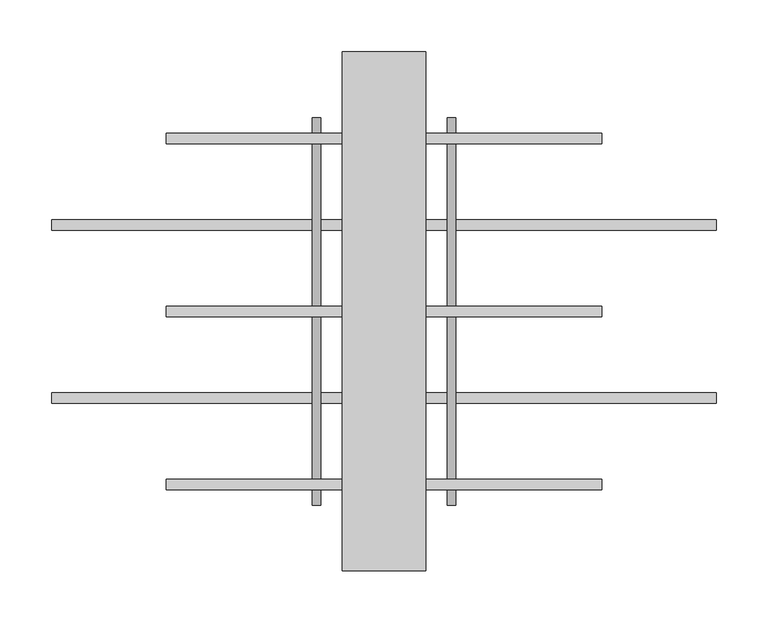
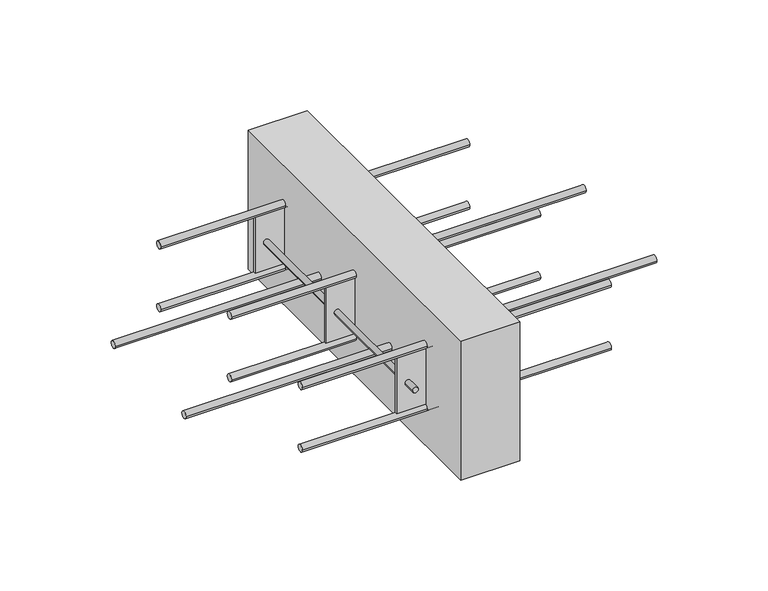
"""IFC4 building model written with IfcOpenShell, lengths in millimetres: proxy geometry, ACINOXplus_Typenreihe_Q : QB+ N."""

from ifc_helpers import new_model, si_unit, point, frame, frame_2d, origin, place, context, project, spatial, polyline, circle_curve, trimmed, segment, composite_curve, outline, extrude, source, transform, mapped, element, save


def generic_models_66d9e6a0(model_context):
    return source(origin(), model_context, "Body", "SweptSolid", [
        extrude(outline(composite_curve([segment(trimmed(circle_curve(frame_2d((83.3333333, -109.0)), 5.0), [point((78.3333333, -109.0))], [point((88.3333333, -109.0))], False, "CARTESIAN"), True, "CONTINUOUS"), segment(trimmed(circle_curve(frame_2d((83.3333333, -109.0)), 5.0), [point((88.3333333, -109.0))], [point((78.3333333, -109.0))], False, "CARTESIAN"), True, "CONTINUOUS")], self_intersect=False)), frame((-320.0, 0.0, 0.0), z_axis=(1.0, 0.0, 0.0), x_axis=(0.0, 1.0, 0.0)), (0.0, 0.0, 1.0), 640.0),
        extrude(outline(composite_curve([segment(trimmed(circle_curve(frame_2d((-83.3333333, -109.0)), 5.0), [point((-88.3333333, -109.0))], [point((-78.3333333, -109.0))], False, "CARTESIAN"), True, "CONTINUOUS"), segment(trimmed(circle_curve(frame_2d((-83.3333333, -109.0)), 5.0), [point((-78.3333333, -109.0))], [point((-88.3333333, -109.0))], False, "CARTESIAN"), True, "CONTINUOUS")], self_intersect=False)), frame((-320.0, 0.0, 0.0), z_axis=(1.0, 0.0, 0.0), x_axis=(0.0, 1.0, 0.0)), (0.0, 0.0, 1.0), 640.0),
        extrude(outline(polyline([(40.0, 250.0), (40.0, -250.0), (-40.0, -250.0), (-40.0, 250.0), (40.0, 250.0)])), frame((0.0, 0.0, -200.0), z_axis=(0.0, 0.0, 1.0), x_axis=(1.0, 0.0, 0.0)), (0.0, 0.0, 1.0), 200.0),
        extrude(outline(polyline([(80.0, 1.5), (80.0, -1.5), (-80.0, -1.5), (-80.0, 1.5), (80.0, 1.5)])), frame((0.0, 0.0, -140.0), z_axis=(0.0, 0.0, 1.0), x_axis=(1.0, 0.0, 0.0)), (0.0, 0.0, 1.0), 80.0),
        extrude(outline(polyline([(80.0, -165.1666667), (80.0, -168.1666667), (-80.0, -168.1666667), (-80.0, -165.1666667), (80.0, -165.1666667)])), frame((0.0, 0.0, -140.0), z_axis=(0.0, 0.0, 1.0), x_axis=(1.0, 0.0, 0.0)), (0.0, 0.0, 1.0), 80.0),
        extrude(outline(polyline([(80.0, 168.1666667), (80.0, 165.1666667), (-80.0, 165.1666667), (-80.0, 168.1666667), (80.0, 168.1666667)])), frame((0.0, 0.0, -140.0), z_axis=(0.0, 0.0, 1.0), x_axis=(1.0, 0.0, 0.0)), (0.0, 0.0, 1.0), 80.0),
        extrude(outline(composite_curve([segment(trimmed(circle_curve(frame_2d((-100.0, -65.0)), 4.0), [point((-100.0, -69.0))], [point((-100.0, -61.0))], False, "CARTESIAN"), True, "CONTINUOUS"), segment(trimmed(circle_curve(frame_2d((-100.0, -65.0)), 4.0), [point((-100.0, -61.0))], [point((-100.0, -69.0))], False, "CARTESIAN"), True, "CONTINUOUS")], self_intersect=False)), frame((0.0, 168.1666667, 0.0), z_axis=(0.0, 1.0, 0.0), x_axis=(0.0, 0.0, 1.0)), (0.0, 0.0, 1.0), 18.5),
        extrude(outline(composite_curve([segment(trimmed(circle_curve(frame_2d((-100.0, -65.0)), 4.0), [point((-100.0, -61.0))], [point((-100.0, -69.0))], False, "CARTESIAN"), True, "CONTINUOUS"), segment(trimmed(circle_curve(frame_2d((-100.0, -65.0)), 4.0), [point((-100.0, -69.0))], [point((-100.0, -61.0))], False, "CARTESIAN"), True, "CONTINUOUS")], self_intersect=False)), frame((0.0, -186.6666667, 0.0), z_axis=(0.0, 1.0, 0.0), x_axis=(0.0, 0.0, 1.0)), (0.0, 0.0, 1.0), 18.5),
        extrude(outline(composite_curve([segment(trimmed(circle_curve(frame_2d((-100.0, -65.0)), 4.0), [point((-100.0, -69.0))], [point((-100.0, -61.0))], False, "CARTESIAN"), True, "CONTINUOUS"), segment(trimmed(circle_curve(frame_2d((-100.0, -65.0)), 4.0), [point((-100.0, -61.0))], [point((-100.0, -69.0))], False, "CARTESIAN"), True, "CONTINUOUS")], self_intersect=False)), frame((0.0, -165.1666667, 0.0), z_axis=(0.0, 1.0, 0.0), x_axis=(0.0, 0.0, 1.0)), (0.0, 0.0, 1.0), 163.6666667),
        extrude(outline(composite_curve([segment(trimmed(circle_curve(frame_2d((-100.0, -65.0)), 4.0), [point((-100.0, -69.0))], [point((-100.0, -61.0))], False, "CARTESIAN"), True, "CONTINUOUS"), segment(trimmed(circle_curve(frame_2d((-100.0, -65.0)), 4.0), [point((-100.0, -61.0))], [point((-100.0, -69.0))], False, "CARTESIAN"), True, "CONTINUOUS")], self_intersect=False)), frame((0.0, 1.5, 0.0), z_axis=(0.0, 1.0, 0.0), x_axis=(0.0, 0.0, 1.0)), (0.0, 0.0, 1.0), 163.6666667),
        extrude(outline(composite_curve([segment(trimmed(circle_curve(frame_2d((-100.0, 65.0)), 4.0), [point((-100.0, 61.0))], [point((-100.0, 69.0))], False, "CARTESIAN"), True, "CONTINUOUS"), segment(trimmed(circle_curve(frame_2d((-100.0, 65.0)), 4.0), [point((-100.0, 69.0))], [point((-100.0, 61.0))], False, "CARTESIAN"), True, "CONTINUOUS")], self_intersect=False)), frame((0.0, 168.1666667, 0.0), z_axis=(0.0, 1.0, 0.0), x_axis=(0.0, 0.0, 1.0)), (0.0, 0.0, 1.0), 18.5),
        extrude(outline(composite_curve([segment(trimmed(circle_curve(frame_2d((-100.0, 65.0)), 4.0), [point((-100.0, 69.0))], [point((-100.0, 61.0))], False, "CARTESIAN"), True, "CONTINUOUS"), segment(trimmed(circle_curve(frame_2d((-100.0, 65.0)), 4.0), [point((-100.0, 61.0))], [point((-100.0, 69.0))], False, "CARTESIAN"), True, "CONTINUOUS")], self_intersect=False)), frame((0.0, -186.6666667, 0.0), z_axis=(0.0, 1.0, 0.0), x_axis=(0.0, 0.0, 1.0)), (0.0, 0.0, 1.0), 18.5),
        extrude(outline(composite_curve([segment(trimmed(circle_curve(frame_2d((-100.0, 65.0)), 4.0), [point((-100.0, 61.0))], [point((-100.0, 69.0))], False, "CARTESIAN"), True, "CONTINUOUS"), segment(trimmed(circle_curve(frame_2d((-100.0, 65.0)), 4.0), [point((-100.0, 69.0))], [point((-100.0, 61.0))], False, "CARTESIAN"), True, "CONTINUOUS")], self_intersect=False)), frame((0.0, -165.1666667, 0.0), z_axis=(0.0, 1.0, 0.0), x_axis=(0.0, 0.0, 1.0)), (0.0, 0.0, 1.0), 163.6666667),
        extrude(outline(composite_curve([segment(trimmed(circle_curve(frame_2d((-100.0, 65.0)), 4.0), [point((-100.0, 61.0))], [point((-100.0, 69.0))], False, "CARTESIAN"), True, "CONTINUOUS"), segment(trimmed(circle_curve(frame_2d((-100.0, 65.0)), 4.0), [point((-100.0, 69.0))], [point((-100.0, 61.0))], False, "CARTESIAN"), True, "CONTINUOUS")], self_intersect=False)), frame((0.0, 1.5, 0.0), z_axis=(0.0, 1.0, 0.0), x_axis=(0.0, 0.0, 1.0)), (0.0, 0.0, 1.0), 163.6666667),
        extrude(outline(composite_curve([segment(trimmed(circle_curve(frame_2d((0.0, -145.0)), 5.0), [point((-5.0, -145.0))], [point((5.0, -145.0))], False, "CARTESIAN"), True, "CONTINUOUS"), segment(trimmed(circle_curve(frame_2d((0.0, -145.0)), 5.0), [point((5.0, -145.0))], [point((-5.0, -145.0))], False, "CARTESIAN"), True, "CONTINUOUS")], self_intersect=False)), frame((-210.0, 0.0, 0.0), z_axis=(1.0, 0.0, 0.0), x_axis=(0.0, 1.0, 0.0)), (0.0, 0.0, 1.0), 420.0),
        extrude(outline(composite_curve([segment(trimmed(circle_curve(frame_2d((166.6666667, -145.0)), 5.0), [point((161.6666667, -145.0))], [point((171.6666667, -145.0))], False, "CARTESIAN"), True, "CONTINUOUS"), segment(trimmed(circle_curve(frame_2d((166.6666667, -145.0)), 5.0), [point((171.6666667, -145.0))], [point((161.6666667, -145.0))], False, "CARTESIAN"), True, "CONTINUOUS")], self_intersect=False)), frame((-210.0, 0.0, 0.0), z_axis=(1.0, 0.0, 0.0), x_axis=(0.0, 1.0, 0.0)), (0.0, 0.0, 1.0), 420.0),
        extrude(outline(composite_curve([segment(trimmed(circle_curve(frame_2d((-166.6666667, -145.0)), 5.0), [point((-171.6666667, -145.0))], [point((-161.6666667, -145.0))], False, "CARTESIAN"), True, "CONTINUOUS"), segment(trimmed(circle_curve(frame_2d((-166.6666667, -145.0)), 5.0), [point((-161.6666667, -145.0))], [point((-171.6666667, -145.0))], False, "CARTESIAN"), True, "CONTINUOUS")], self_intersect=False)), frame((-210.0, 0.0, 0.0), z_axis=(1.0, 0.0, 0.0), x_axis=(0.0, 1.0, 0.0)), (0.0, 0.0, 1.0), 420.0),
        extrude(outline(composite_curve([segment(trimmed(circle_curve(frame_2d((0.0, -55.0)), 5.0), [point((-5.0, -55.0))], [point((5.0, -55.0))], False, "CARTESIAN"), True, "CONTINUOUS"), segment(trimmed(circle_curve(frame_2d((0.0, -55.0)), 5.0), [point((5.0, -55.0))], [point((-5.0, -55.0))], False, "CARTESIAN"), True, "CONTINUOUS")], self_intersect=False)), frame((-210.0, 0.0, 0.0), z_axis=(1.0, 0.0, 0.0), x_axis=(0.0, 1.0, 0.0)), (0.0, 0.0, 1.0), 420.0),
        extrude(outline(composite_curve([segment(trimmed(circle_curve(frame_2d((166.6666667, -55.0)), 5.0), [point((161.6666667, -55.0))], [point((171.6666667, -55.0))], False, "CARTESIAN"), True, "CONTINUOUS"), segment(trimmed(circle_curve(frame_2d((166.6666667, -55.0)), 5.0), [point((171.6666667, -55.0))], [point((161.6666667, -55.0))], False, "CARTESIAN"), True, "CONTINUOUS")], self_intersect=False)), frame((-210.0, 0.0, 0.0), z_axis=(1.0, 0.0, 0.0), x_axis=(0.0, 1.0, 0.0)), (0.0, 0.0, 1.0), 420.0),
        extrude(outline(composite_curve([segment(trimmed(circle_curve(frame_2d((-166.6666667, -55.0)), 5.0), [point((-171.6666667, -55.0))], [point((-161.6666667, -55.0))], False, "CARTESIAN"), True, "CONTINUOUS"), segment(trimmed(circle_curve(frame_2d((-166.6666667, -55.0)), 5.0), [point((-161.6666667, -55.0))], [point((-171.6666667, -55.0))], False, "CARTESIAN"), True, "CONTINUOUS")], self_intersect=False)), frame((-210.0, 0.0, 0.0), z_axis=(1.0, 0.0, 0.0), x_axis=(0.0, 1.0, 0.0)), (0.0, 0.0, 1.0), 420.0),
    ])


if __name__ == "__main__":
    model = new_model("IFC4")
    model_context = context("Model", 3, world=origin())
    ifc_project = project(units=[si_unit("LENGTHUNIT", "METRE", prefix="MILLI")], contexts=[model_context])
    site = spatial("IfcSite", under=ifc_project)
    building = spatial("IfcBuilding", under=site)
    placement = place(None, origin())
    generic_models_shape = generic_models_66d9e6a0(model_context)
    element("IfcBuildingElementProxy", 1, Name="ACINOXplus_Typenreihe_Q : QB+ N", ObjectType="ACINOXplus_Typenreihe_Q : QB+ N", at=placement, inside=building, context=model_context, shape_type="MappedRepresentation", body=[
        mapped(generic_models_shape, transform((0.0, 0.0, 0.0), x_axis=(1.0, 0.0, 0.0), y_axis=(0.0, 1.0, 0.0), z_axis=(0.0, 0.0, 1.0))),
    ])
    save(model, "model.ifc")
